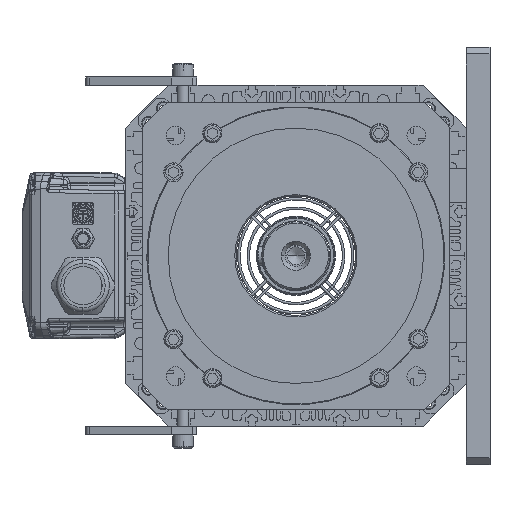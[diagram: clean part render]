
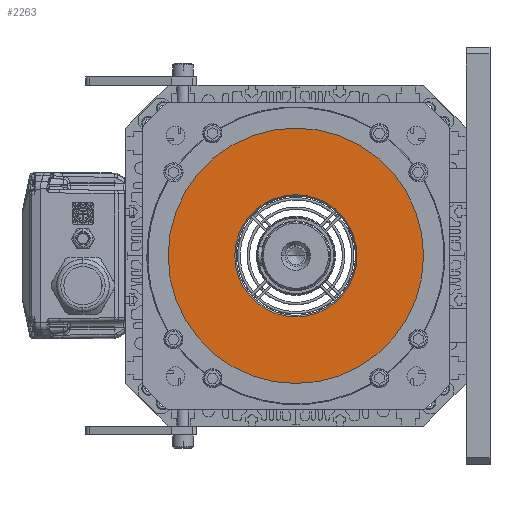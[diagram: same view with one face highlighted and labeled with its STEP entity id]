
A CAD part, left-side view. The second image highlights one B-rep face of the part: STEP entity #2263.
In plain terms, the highlighted planar face has unit normal (-1, 0, 0).
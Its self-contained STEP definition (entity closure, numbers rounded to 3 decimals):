
#838=CARTESIAN_POINT('',(171.,0.,0.));
#839=DIRECTION('',(1.,0.,0.));
#840=DIRECTION('',(0.,1.,0.));
#841=AXIS2_PLACEMENT_3D('',#838,#839,#840);
#847=CARTESIAN_POINT('',(171.,0.,0.));
#848=DIRECTION('',(-1.,0.,0.));
#849=DIRECTION('',(0.,1.,0.));
#850=AXIS2_PLACEMENT_3D('',#847,#848,#849);
#856=CARTESIAN_POINT('',(171.,0.,0.));
#857=DIRECTION('',(1.,0.,0.));
#858=DIRECTION('',(0.,1.,0.));
#859=AXIS2_PLACEMENT_3D('',#856,#857,#858);
#861=CARTESIAN_POINT('',(171.,0.,0.));
#862=DIRECTION('',(1.,0.,0.));
#863=DIRECTION('',(0.,-1.,0.));
#864=AXIS2_PLACEMENT_3D('',#861,#862,#863);
#2070=CARTESIAN_POINT('',(171.,150.,0.));
#2071=CARTESIAN_POINT('',(171.,-150.,0.));
#2072=VERTEX_POINT('',#2070);
#2073=VERTEX_POINT('',#2071);
#2078=CARTESIAN_POINT('',(171.,71.732,0.));
#2079=CARTESIAN_POINT('',(171.,-71.732,0.));
#2080=VERTEX_POINT('',#2078);
#2081=VERTEX_POINT('',#2079);
#2248=CARTESIAN_POINT('',(171.,0.,0.));
#2249=DIRECTION('',(1.,0.,0.));
#2250=DIRECTION('',(0.,-1.,0.));
#2251=AXIS2_PLACEMENT_3D('',#2248,#2249,#2250);
#2252=PLANE('',#2251);
#2253=ORIENTED_EDGE('',*,*,#2242,.F.);
#2254=ORIENTED_EDGE('',*,*,#2228,.T.);
#2255=EDGE_LOOP('',(#2253,#2254));
#2256=FACE_OUTER_BOUND('',#2255,.F.);
#2258=ORIENTED_EDGE('',*,*,#2257,.F.);
#2260=ORIENTED_EDGE('',*,*,#2259,.F.);
#2261=EDGE_LOOP('',(#2258,#2260));
#2262=FACE_BOUND('',#2261,.F.);
#2263=ADVANCED_FACE('',(#2256,#2262),#2252,.F.);
#842=CIRCLE('',#841,150.);
#851=CIRCLE('',#850,150.);
#860=CIRCLE('',#859,71.732);
#865=CIRCLE('',#864,71.732);
#2228=EDGE_CURVE('',#2072,#2073,#842,.T.);
#2242=EDGE_CURVE('',#2072,#2073,#851,.T.);
#2257=EDGE_CURVE('',#2080,#2081,#860,.T.);
#2259=EDGE_CURVE('',#2081,#2080,#865,.T.);
